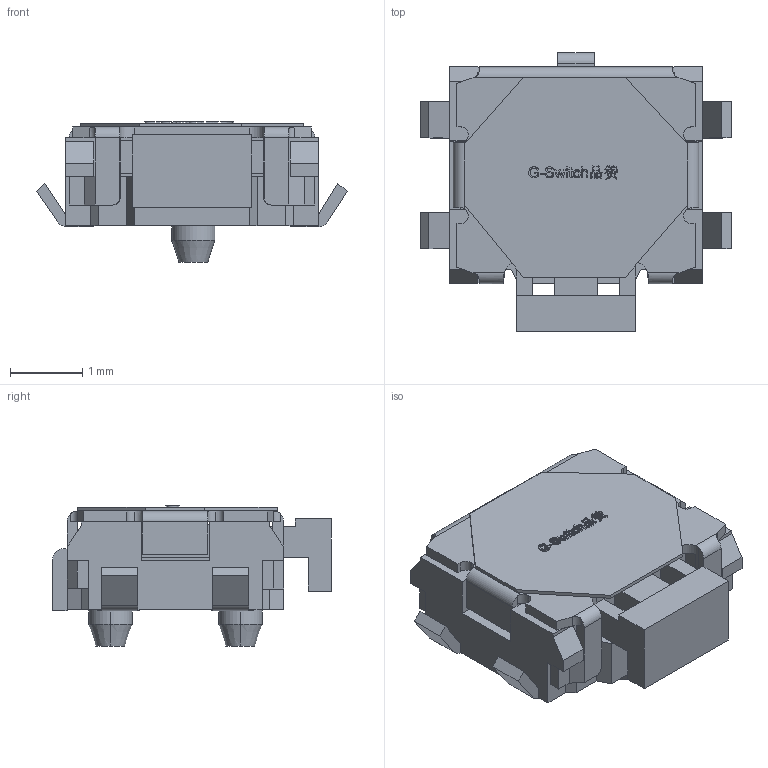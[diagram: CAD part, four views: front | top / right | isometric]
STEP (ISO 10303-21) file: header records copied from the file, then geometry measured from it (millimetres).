
FILE_DESCRIPTION (( 'STEP AP203' ), '1' );
FILE_NAME ('GT-TA045X-H036-L1A.STEP', '2023-09-06T07:09:38', ( '' ), ( '' ), 'SwSTEP 2.0', 'SolidWorks 2023', '' );
FILE_SCHEMA (( 'CONFIG_CONTROL_DESIGN' ));
Length unit declared in the file: millimetre
Products named in the file (1): GT-TA045X-H036-L1A
Bounding box: 4.3 x 3.86 x 1.94 mm (x, y, z)
Volume: 12.3 mm3; surface area: 109.2 mm2
Topology: 2 solids, 2 shells, 631 faces, 1796 edges, 1178 vertices
Faces by surface type: plane 500, bspline 74, cylinder 51, cone 4, torus 2
Entity records: 23927 total; most frequent: CARTESIAN_POINT 7884, ORIENTED_EDGE 3592, DIRECTION 2844, EDGE_CURVE 1796, VECTOR 1512, LINE 1512, VERTEX_POINT 1178, EDGE_LOOP 666
